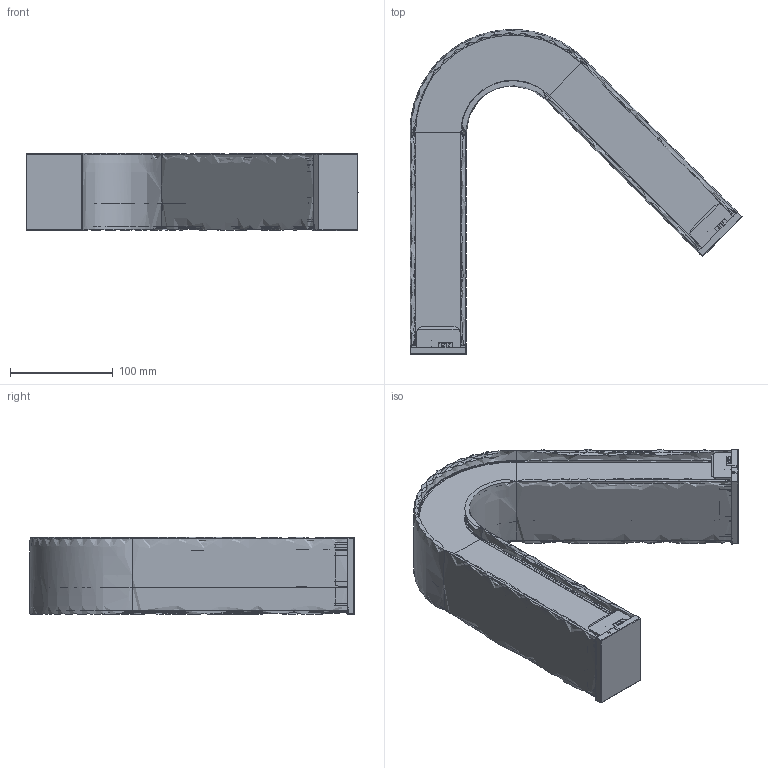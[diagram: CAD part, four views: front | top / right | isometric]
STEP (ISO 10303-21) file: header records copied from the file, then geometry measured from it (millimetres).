
FILE_DESCRIPTION(/* description */ (''),/* implementation_level */ '2;1');
FILE_NAME(/* name */ 'KISSA4~1',/* time_stamp */ '2026-04-27T15:53:18+02:00',/* author */ (''),/* organization */ (''),/* preprocessor_version */ 'ST-DEVELOPER v16.5',/* originating_system */ '',/* authorisation */ '');
FILE_SCHEMA (('AUTOMOTIVE_DESIGN'));
Products named in the file (1): Document
Bounding box: 323.65 x 316.74 x 75.16 mm (x, y, z)
Volume: 268915.5 mm3; surface area: 471695.6 mm2
Topology: 9 solids, 9 shells, 1922 faces, 5268 edges, 3366 vertices
Faces by surface type: bspline 1922
Entity records: 167708 total; most frequent: CARTESIAN_POINT 100525, B_SPLINE_CURVE_WITH_KNOTS 14557, ORIENTED_EDGE 10512, PCURVE 10512, DEFINITIONAL_REPRESENTATION 10512, SURFACE_CURVE 5256, EDGE_CURVE 5256, VERTEX_POINT 3366
